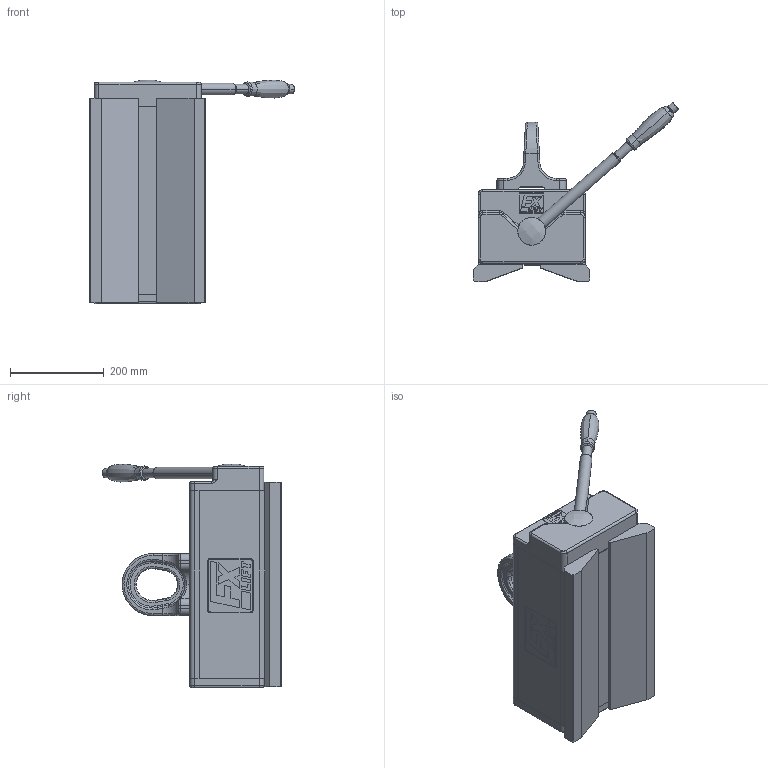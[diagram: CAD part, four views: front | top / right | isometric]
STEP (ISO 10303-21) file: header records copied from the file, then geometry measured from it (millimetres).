
FILE_DESCRIPTION(('STEP AP214'),'1');
FILE_NAME('1101_1201.stp','2017-06-12T09:30:47',('TraceParts'),('TraceParts S.A.'),'Spatial InterOp 3D',' ',' ');
FILE_SCHEMA(('automotive_design'));
Length unit declared in the file: millimetre
Products named in the file (1): 1101_1201
Bounding box: 436.95 x 382.46 x 476.45 mm (x, y, z)
Volume: 19588102.6 mm3; surface area: 622064.7 mm2
Topology: 1 solids, 1 shells, 727 faces, 1891 edges, 1208 vertices
Faces by surface type: plane 422, bspline 116, cylinder 111, cone 39, torus 35, sphere 4
Entity records: 48690 total; most frequent: CARTESIAN_POINT 26164, ORIENTED_EDGE 3762, DIRECTION 2904, EDGE_CURVE 1881, LINE 1242, VECTOR 1242, VERTEX_POINT 1208, AXIS2_PLACEMENT_3D 831
